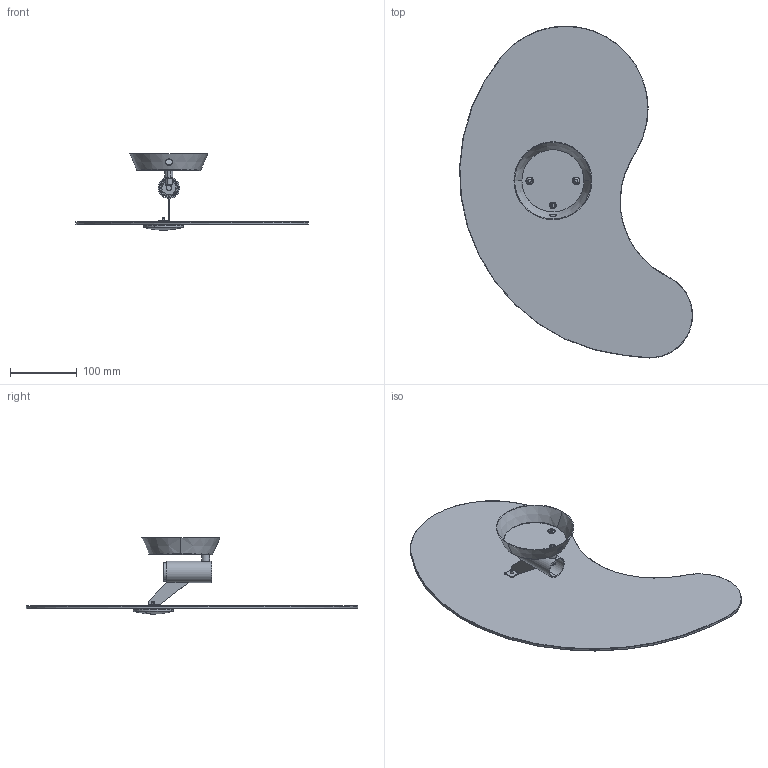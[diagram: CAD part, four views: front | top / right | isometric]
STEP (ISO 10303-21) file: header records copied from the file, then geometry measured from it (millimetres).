
FILE_DESCRIPTION (( 'STEP AP214' ), '1' );
FILE_NAME ('043_1_W_PL_3D.STEP', '2021-05-20T12:50:45', ( '' ), ( '' ), 'SwSTEP 2.0', 'SolidWorks 2021', '' );
FILE_SCHEMA (( 'AUTOMOTIVE_DESIGN' ));
Length unit declared in the file: millimetre
Products named in the file (1): 043_1_W_PL_3D
Bounding box: 349.62 x 498.3 x 114.2 mm (x, y, z)
Volume: 518373.4 mm3; surface area: 300708.5 mm2
Topology: 10 solids, 10 shells, 245 faces, 562 edges, 346 vertices
Faces by surface type: plane 123, cylinder 64, torus 28, cone 28, sphere 2
Entity records: 10056 total; most frequent: CARTESIAN_POINT 1573, DIRECTION 1264, ORIENTED_EDGE 1120, EDGE_CURVE 560, AXIS2_PLACEMENT_3D 511, VERTEX_POINT 346, EDGE_LOOP 278, CIRCLE 265
